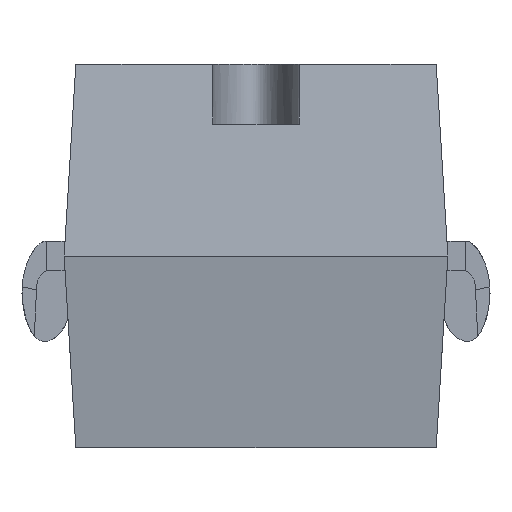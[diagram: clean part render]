
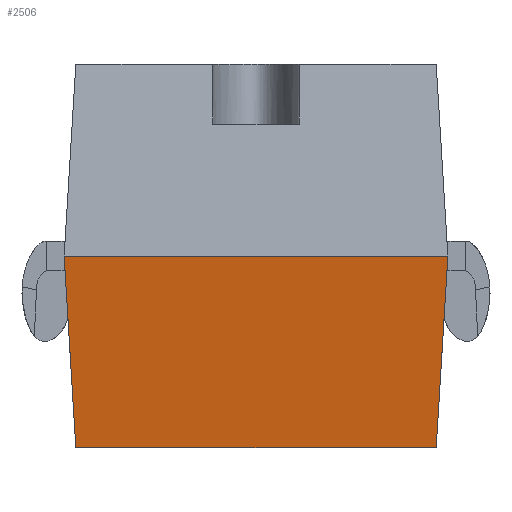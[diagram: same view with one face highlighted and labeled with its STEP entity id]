
A CAD part, left-side view. The second image highlights one B-rep face of the part: STEP entity #2506.
In plain terms, the highlighted planar face has unit normal (-0.989, 0, -0.147).
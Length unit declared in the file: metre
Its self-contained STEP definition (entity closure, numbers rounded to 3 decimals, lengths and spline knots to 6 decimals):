
#196=LINE('',#3401,#410);
#239=LINE('',#3663,#453);
#319=LINE('',#4187,#533);
#332=LINE('',#4235,#546);
#410=VECTOR('',#2796,1.);
#453=VECTOR('',#2871,1.);
#533=VECTOR('',#3071,1.);
#546=VECTOR('',#3110,1.);
#1047=ORIENTED_EDGE('',*,*,#1364,.T.);
#1048=ORIENTED_EDGE('',*,*,#1617,.T.);
#1049=ORIENTED_EDGE('',*,*,#1442,.F.);
#1050=ORIENTED_EDGE('',*,*,#1599,.T.);
#1364=EDGE_CURVE('',#1717,#1722,#196,.T.);
#1442=EDGE_CURVE('',#1784,#1785,#239,.T.);
#1599=EDGE_CURVE('',#1784,#1717,#319,.F.);
#1617=EDGE_CURVE('',#1722,#1785,#332,.T.);
#1717=VERTEX_POINT('',#3366);
#1722=VERTEX_POINT('',#3402);
#1784=VERTEX_POINT('',#3662);
#1785=VERTEX_POINT('',#3664);
#2108=EDGE_LOOP('',(#1047,#1048,#1049,#1050));
#2250=FACE_BOUND('',#2108,.T.);
#2377=PLANE('',#2673);
#2506=ADVANCED_FACE('',(#2250),#2377,.F.);
#2673=AXIS2_PLACEMENT_3D('',#4236,#3111,#3112);
#2796=DIRECTION('',(0.147,-0.06,-0.987));
#2871=DIRECTION('',(0.147,0.06,-0.987));
#3071=DIRECTION('',(0.,-1.,0.));
#3110=DIRECTION('',(0.,-1.,0.));
#3111=DIRECTION('',(0.989,0.,0.147));
#3112=DIRECTION('',(-0.147,0.,0.989));
#3366=CARTESIAN_POINT('',(-0.043027,-0.0023,-0.028397));
#3401=CARTESIAN_POINT('',(-0.043027,-0.0023,-0.028397));
#3402=CARTESIAN_POINT('',(-0.042953,-0.002331,-0.028897));
#3662=CARTESIAN_POINT('',(-0.043027,-0.0033,-0.028397));
#3663=CARTESIAN_POINT('',(-0.043027,-0.0033,-0.028397));
#3664=CARTESIAN_POINT('',(-0.042953,-0.00327,-0.028897));
#4187=CARTESIAN_POINT('',(-0.043027,-0.0028,-0.028397));
#4235=CARTESIAN_POINT('',(-0.042953,-0.0028,-0.028897));
#4236=CARTESIAN_POINT('',(-0.043027,-0.0028,-0.028397));
